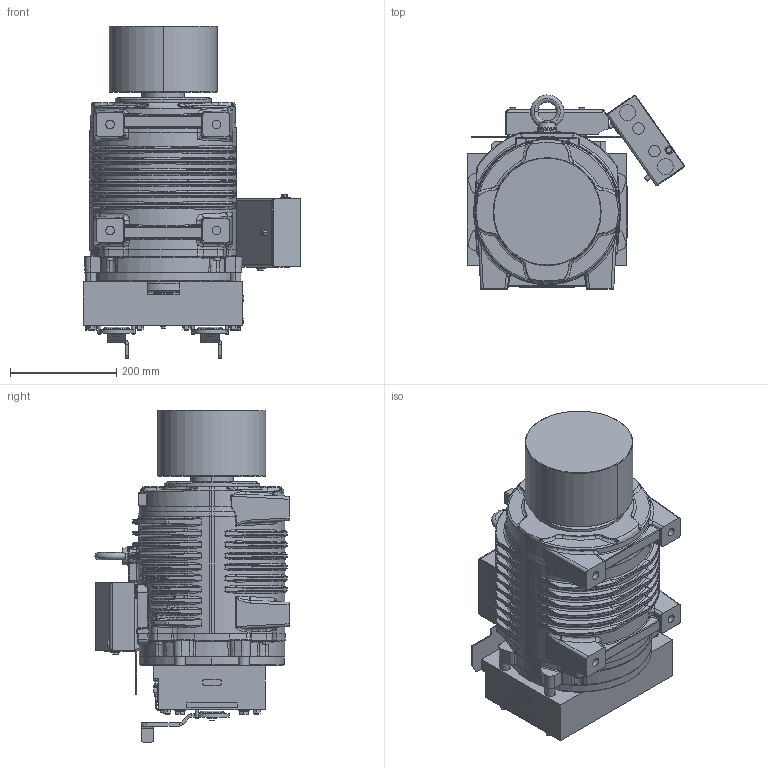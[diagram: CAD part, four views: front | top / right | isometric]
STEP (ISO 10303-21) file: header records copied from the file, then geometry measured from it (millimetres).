
FILE_DESCRIPTION((''),'2;1');
FILE_NAME('00352012_SW0001','2022-04-27T',('pietrobellog'),('Sicor spa'),'CREO PARAMETRIC BY PTC INC, 2017170','CREO PARAMETRIC BY PTC INC, 2017170','');
FILE_SCHEMA(('CONFIG_CONTROL_DESIGN'));
Products named in the file (1): 00352012_SW0001
Bounding box: 408.78 x 364.99 x 624.52 mm (x, y, z)
Surface area: 1547034.1 mm2 (no closed solid volume)
Topology: 0 solids, 147 shells, 2606 faces, 7119 edges, 4462 vertices
Faces by surface type: bspline 895, plane 713, cylinder 594, cone 198, torus 181, sphere 23, revolution 2
Entity records: 148276 total; most frequent: CARTESIAN_POINT 90641, ORIENTED_EDGE 12162, DIRECTION 10659, EDGE_CURVE 7119, VERTEX_POINT 4462, AXIS2_PLACEMENT_3D 4178, EDGE_LOOP 2610, FACE_OUTER_BOUND 2606
